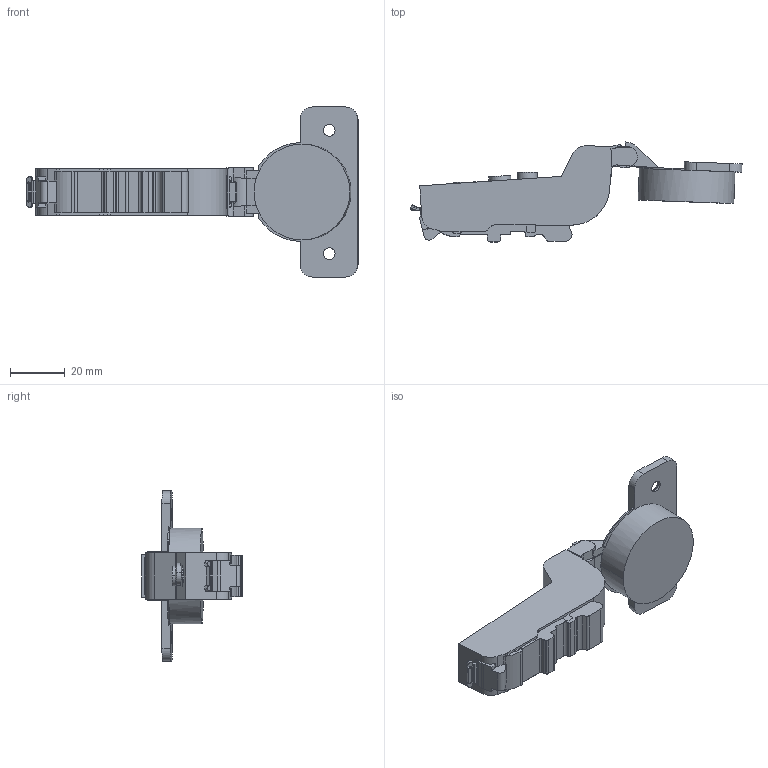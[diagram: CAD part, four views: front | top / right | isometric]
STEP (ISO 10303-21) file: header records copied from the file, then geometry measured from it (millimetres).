
FILE_DESCRIPTION (( 'STEP AP203' ), '1' );
FILE_NAME ('C81C815FAB DTC 3D OPEN.STEP', '2024-07-25T07:34:46', ( '微软用户' ), ( '微软中国' ), 'SwSTEP 2.0', 'SolidWorks 2021', '' );
FILE_SCHEMA (( 'CONFIG_CONTROL_DESIGN' ));
Length unit declared in the file: millimetre
Products named in the file (1): C81C815FAB DTC 3D OPEN
Bounding box: 121.02 x 36.47 x 62 mm (x, y, z)
Volume: 41706.2 mm3; surface area: 12569.7 mm2
Topology: 1 solids, 3 shells, 321 faces, 896 edges, 586 vertices
Faces by surface type: plane 144, cylinder 134, torus 26, bspline 13, cone 4
Entity records: 10941 total; most frequent: CARTESIAN_POINT 2628, ORIENTED_EDGE 1792, DIRECTION 1705, EDGE_CURVE 896, AXIS2_PLACEMENT_3D 601, VERTEX_POINT 586, VECTOR 503, LINE 503
